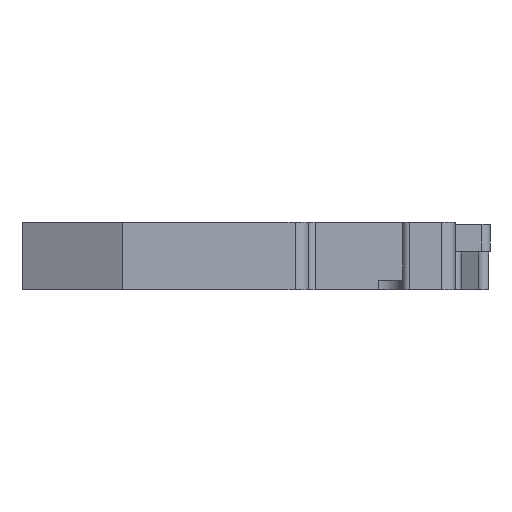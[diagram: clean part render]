
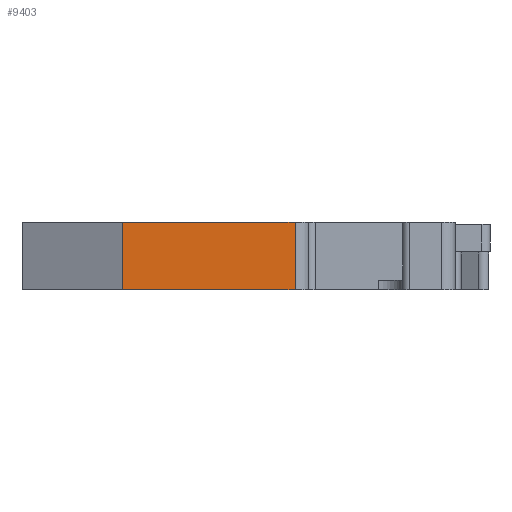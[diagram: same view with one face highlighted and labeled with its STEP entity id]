
A CAD part, left-side view. The second image highlights one B-rep face of the part: STEP entity #9403.
In plain terms, the highlighted planar face has unit normal (-1, 0, 0).
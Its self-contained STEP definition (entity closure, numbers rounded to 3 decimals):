
#195 = ORIENTED_EDGE ( 'NONE', *, *, #26210, .T. ) ;
#1463 = CARTESIAN_POINT ( 'NONE',  ( -22.095, 20.221, -40.852 ) ) ;
#1570 = CARTESIAN_POINT ( 'NONE',  ( -22.095, 20.221, -40.852 ) ) ;
#2743 = FACE_OUTER_BOUND ( 'NONE', #14232, .T. ) ;
#2890 = VERTEX_POINT ( 'NONE', #3009 ) ;
#2974 = ORIENTED_EDGE ( 'NONE', *, *, #14928, .F. ) ;
#3009 = CARTESIAN_POINT ( 'NONE',  ( -22.095, 33.021, -35.852 ) ) ;
#6166 = ORIENTED_EDGE ( 'NONE', *, *, #32687, .F. ) ;
#6343 = PLANE ( 'NONE',  #7393 ) ;
#7393 = AXIS2_PLACEMENT_3D ( 'NONE', #14209, #32422, #22156 ) ;
#8987 = LINE ( 'NONE', #11259, #29409 ) ;
#9403 = ADVANCED_FACE ( 'NONE', ( #2743 ), #6343, .T. ) ;
#11259 = CARTESIAN_POINT ( 'NONE',  ( -22.095, 33.021, -40.852 ) ) ;
#11666 = DIRECTION ( 'NONE',  ( 0., 0., 1. ) ) ;
#11703 = DIRECTION ( 'NONE',  ( 0., -1., 0. ) ) ;
#12175 = LINE ( 'NONE', #1570, #24796 ) ;
#12458 = DIRECTION ( 'NONE',  ( 0., 0., 1. ) ) ;
#12535 = DIRECTION ( 'NONE',  ( 0., -1., 0. ) ) ;
#12789 = CARTESIAN_POINT ( 'NONE',  ( -22.095, 33.021, -40.852 ) ) ;
#14209 = CARTESIAN_POINT ( 'NONE',  ( -22.095, 33.021, -40.852 ) ) ;
#14232 = EDGE_LOOP ( 'NONE', ( #6166, #2974, #22100, #195 ) ) ;
#14928 = EDGE_CURVE ( 'NONE', #27260, #2890, #32980, .T. ) ;
#17726 = VERTEX_POINT ( 'NONE', #1463 ) ;
#17972 = CARTESIAN_POINT ( 'NONE',  ( -22.095, 20.221, -35.852 ) ) ;
#18306 = VECTOR ( 'NONE', #12458, 1000. ) ;
#22100 = ORIENTED_EDGE ( 'NONE', *, *, #31461, .T. ) ;
#22156 = DIRECTION ( 'NONE',  ( 0., 0., 1. ) ) ;
#23051 = CARTESIAN_POINT ( 'NONE',  ( -22.095, 33.021, -40.852 ) ) ;
#24796 = VECTOR ( 'NONE', #11666, 1000. ) ;
#26210 = EDGE_CURVE ( 'NONE', #17726, #30616, #12175, .T. ) ;
#27260 = VERTEX_POINT ( 'NONE', #23051 ) ;
#28137 = CARTESIAN_POINT ( 'NONE',  ( -22.095, 33.021, -35.852 ) ) ;
#29409 = VECTOR ( 'NONE', #11703, 1000. ) ;
#30570 = LINE ( 'NONE', #28137, #30953 ) ;
#30616 = VERTEX_POINT ( 'NONE', #17972 ) ;
#30953 = VECTOR ( 'NONE', #12535, 1000. ) ;
#31461 = EDGE_CURVE ( 'NONE', #27260, #17726, #8987, .T. ) ;
#32422 = DIRECTION ( 'NONE',  ( -1., 0., 0. ) ) ;
#32687 = EDGE_CURVE ( 'NONE', #2890, #30616, #30570, .T. ) ;
#32980 = LINE ( 'NONE', #12789, #18306 ) ;
